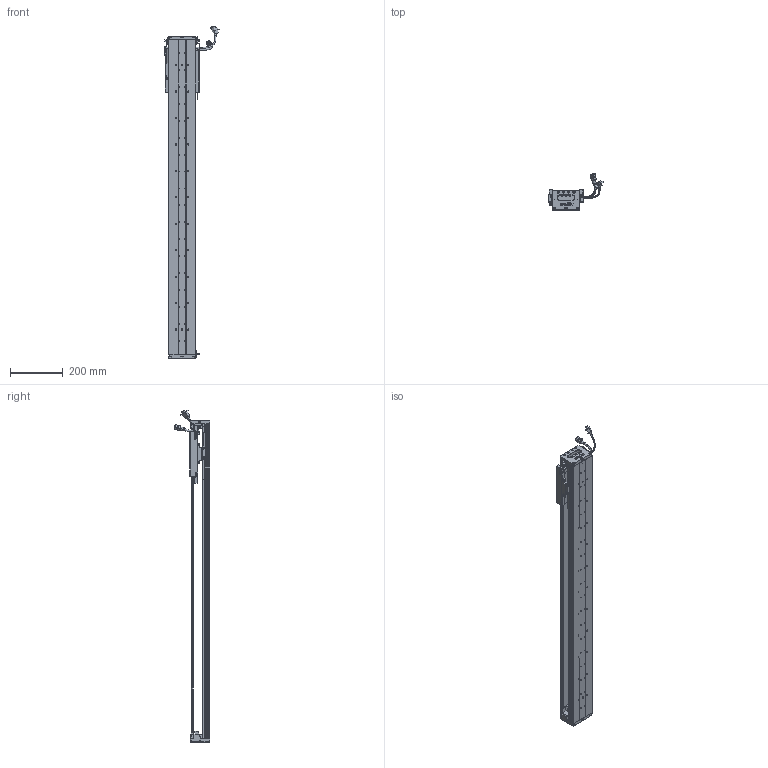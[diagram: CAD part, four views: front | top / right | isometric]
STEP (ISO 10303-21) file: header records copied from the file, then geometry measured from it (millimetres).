
FILE_DESCRIPTION (( 'STEP AP203' ), '1' );
FILE_NAME ('Z2-RY100D-1-L500-B-K.SLDASM_0950.step', '2021-05-17T02:35:46', ( '盈信电脑' ), ( '东莞市道滘镇水果街19号' ), 'SwSTEP 2.0', 'SolidWorks 2016', '' );
FILE_SCHEMA (( 'CONFIG_CONTROL_DESIGN' ));
Length unit declared in the file: millimetre
Products named in the file (36): Z-RY100D詩湍奻揤裔; Z2-RY100铝滑块（21款）; SEAL; LABEL; 080黍杅芛假蚾釱21遴; SCREW-M1.6-1; HARNESS; SCREW-M1.6-3; COVER-Part-1; Z2-RY100D-1-L500-B-K.SLDASM_0950; PBU_SHEET; 140雄赽晤鎢ん堤盄; SCREW-M1.7-1; Z2-RY100-L500詩湍90mm遵_0950; LABEL-Part-1; PSLH080_PSLF2; SCREW-M1.6-2; 覜茼ん672; SCREW-M1.6; HARNESS-Part-2; Z-RY100D覜茼んえ; SHIELDPLATE; COVER; HOLDER0; 榋妏寠巭燃_暯_M2_2; SEAL-Part-1; 100-Z-臏賑輸盄裔(21遴); SCALE-Part-2; 140蚥薯蝶輸; SCALE; Z-100詩湍傷裔啣; SCREW-M1.7; HARNESS-Part-1; Z2-RY100D-500-倰第菁釱_0950; Z-RY100D詩湍狟揤裔; SCALE-Part-1
Assembly tree (43 placements, depth 4):
  Z2-RY100D-1-L500-B-K.SLDASM_0950
    Z2-RY100D-500-倰第菁釱_0950
    Z2-RY100铝滑块（21款）
    PSLH080_PSLF2
      SCALE
        SCALE-Part-1
        SCALE-Part-2
      HARNESS
        HARNESS-Part-1
        HARNESS-Part-2
      LABEL
        LABEL-Part-1
      COVER
        COVER-Part-1
      SEAL
        SEAL-Part-1
      榋妏寠巭燃_暯_M2_2
      SHIELDPLATE
      SCREW-M1.7
      SCREW-M1.7-1
      PBU_SHEET
      SCREW-M1.6
      SCREW-M1.6-1
      SCREW-M1.6-2
      SCREW-M1.6-3
      HOLDER0
    080黍杅芛假蚾釱21遴
    Z-100詩湍傷裔啣  x2
    140蚥薯蝶輸  x2
    覜茼ん672  x3
    Z-RY100D覜茼んえ  x3
    100-Z-臏賑輸盄裔(21遴)
    140雄赽晤鎢ん堤盄
    Z2-RY100-L500詩湍90mm遵_0950
    Z-RY100D詩湍狟揤裔  x2
    Z-RY100D詩湍奻揤裔  x2
Bounding box: 205.84 x 136.11 x 1255.43 mm (x, y, z)
Volume: 2530398.9 mm3; surface area: 982931.4 mm2
Topology: 38 solids, 38 shells, 2588 faces, 6819 edges, 4320 vertices
Faces by surface type: cylinder 1126, plane 1122, cone 218, torus 69, bspline 53
Entity records: 70655 total; most frequent: CARTESIAN_POINT 14916, DIRECTION 11179, ORIENTED_EDGE 10534, EDGE_CURVE 5267, AXIS2_PLACEMENT_3D 4111, VERTEX_POINT 3388, LINE 2957, VECTOR 2957
